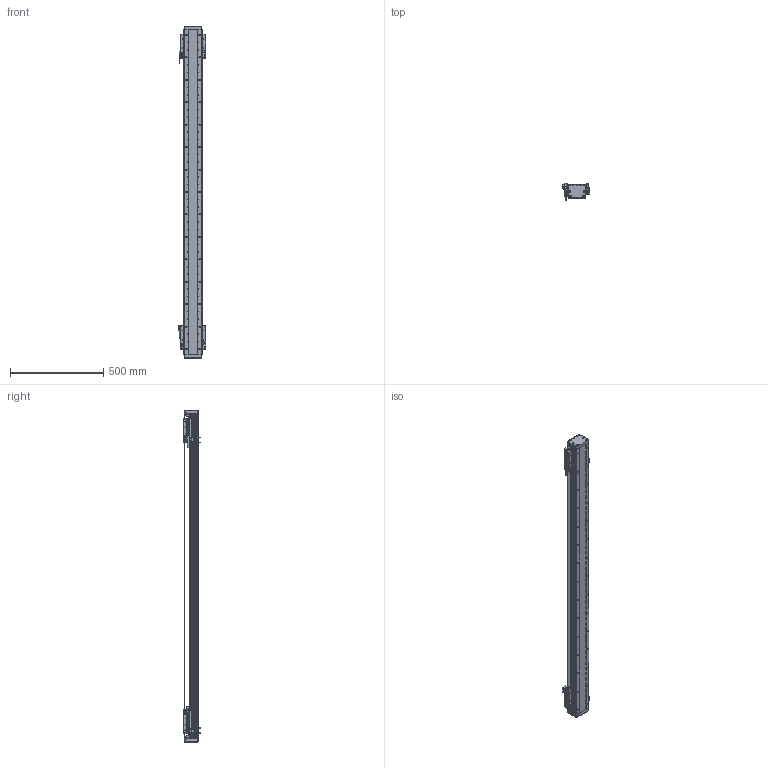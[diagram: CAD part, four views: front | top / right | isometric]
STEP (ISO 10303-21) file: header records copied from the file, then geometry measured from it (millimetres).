
FILE_DESCRIPTION (( 'STEP AP203' ), '1' );
FILE_NAME ('DA-B95-2-B15-T1400-C010-0.2 直线电机.STEP', '2023-05-06T06:31:07', ( '微软用户' ), ( '微软中国' ), 'SwSTEP 2.0', 'SolidWorks 2019', '' );
FILE_SCHEMA (( 'CONFIG_CONTROL_DESIGN' ));
Length unit declared in the file: millimetre
Products named in the file (34): 复件 六角薄螺母 M3^DA-A95-B15-T-C010-0.2-N 直线电机_GB_FASTENER_NUT_STNAB M3-C; 复件 DKW-KGZ-ZJ-00 中间光电开关支架^DA-A95-B15-T-C010-0.2-N 直线电机; 葩璃 PM-Y45^DA-A95-B15-T-C010-0.2-N 眻盄萇儂; LMDK-2-R001-V5-L02-C1-F00，0.2M 读数头^DA-A95-B15-T-C010-0.2-N 直线电机_DMA-010-0.2; 复件 复件 18252-0001-004-00 钢带端盖^DA-A95-B15-T-C010-0.2-N 直线电机; DA95-HXJ-00 缓冲橡胶^DA-A95-B15-T-C010-0.2-N 直线电机; 葩璃 DA95-B15-DP-A-00 菜えA^66245-BU95-V 幗紩賑怢; 葩璃 BKMA01-W060-TRL^DA-A95-B15-T-C010-0.2-N 眻盄萇儂; 葩璃 DA95-B15-DP--B-00 菜えB^66245-BU95-V 幗紩賑怢; B15 XD-U-02L ｴﾅﾕ､ｳﾟ^DA-A95-B15-T-C010-0.2-N ﾖｱﾏﾟｵ扈銈XD-U-02L; 66245-BU95-V-00 珨极趙賑雄怢啣; 复件 复件 18252-0001-003-00 钢带拉块^DA-A95-B15-T-C010-0.2-N 直线电机; 复件 DA95-DB-00  挡板^66245-BU95-V 滚珠滑台; DA-B95-2-B15-T1400-C010-0.2 眻盄萇儂; 葩璃 DA95-GT-T-00^IU-BU95-L 菁釱絳寢_DA95; 复件 DA95-HK-GT-00 滑块钢轨^66245-BU95-V-00 一体化滑动台板; IU-BU95-L 菁釱絳寢; 复件 纯铜油杯 6x6mm^66245-BU95-V 滚珠滑台; 复件 66245-BU95-HT-V-01 滑动台板^66245-BU95-V-00 一体化滑动台板; IU-BU95-L-00 菁釱_L1740; DA-A95-GYP-00 光电感应片^DA-A95-B15-T-C010-0.2-N 直线电机; 复件 DA95-B15 钢带盖板^DA-A95-B15-T-C010-0.2-N 直线电机; 复件 DA95-DK-00 挡块^66245-BU95-V 滚珠滑台; 66245-BU95-V 幗紩賑怢; 复件 DA95-MFP-01 密封片^66245-BU95-V 滚珠滑台; 复件 DA95-B15-YB-A-00 压板A^66245-BU95-V 滚珠滑台; 复件 DA95-B15-YB-B-00 压板B^66245-BU95-V 滚珠滑台; PM-T45 光电开关^DA-A95-B15-T-C010-0.2-N 直线电机; 复件 DKW-GYP-ZJ-00 中间光电感应片^DA-A95-B15-T-C010-0.2-N 直线电机; 葩璃 BKM015-W060-C1-TP-DA-0.2^DA-A95-B15-T-C010-0.2-N 眻盄萇儂; 复件 复件 18252-0001-002-00 钢带垫块^DA-A95-B15-T-C010-0.2-N 直线电机; 复件 DKW-HXJ-JY-00 缓冲橡胶^DA-A95-B15-T-C010-0.2-N 直线电机
Assembly tree (80 placements, depth 4):
  DA-B95-2-B15-T1400-C010-0.2 眻盄萇儂
    IU-BU95-L 菁釱絳寢
      IU-BU95-L-00 菁釱_L1740
      葩璃 DA95-GT-T-00^IU-BU95-L 菁釱絳寢_DA95  x2
    66245-BU95-V 幗紩賑怢
      66245-BU95-V-00 珨极趙賑雄怢啣
        复件 66245-BU95-HT-V-01 滑动台板^66245-BU95-V-00 一体化滑动台板
        复件 DA95-HK-GT-00 滑块钢轨^66245-BU95-V-00 一体化滑动台板  x2
      葩璃 DA95-B15-DP-A-00 菜えA^66245-BU95-V 幗紩賑怢
      复件 DA95-B15-YB-A-00 压板A^66245-BU95-V 滚珠滑台
      复件 DA95-B15-YB-B-00 压板B^66245-BU95-V 滚珠滑台
      复件 DA95-DB-00  挡板^66245-BU95-V 滚珠滑台  x4
      复件 DA95-DK-00 挡块^66245-BU95-V 滚珠滑台  x2
      复件 DA95-MFP-01 密封片^66245-BU95-V 滚珠滑台  x4
      复件 纯铜油杯 6x6mm^66245-BU95-V 滚珠滑台  x2
      葩璃 DA95-B15-DP--B-00 菜えB^66245-BU95-V 幗紩賑怢
    66245-BU95-V 幗紩賑怢
      66245-BU95-V-00 珨极趙賑雄怢啣
        复件 66245-BU95-HT-V-01 滑动台板^66245-BU95-V-00 一体化滑动台板
        复件 DA95-HK-GT-00 滑块钢轨^66245-BU95-V-00 一体化滑动台板  x2
      葩璃 DA95-B15-DP-A-00 菜えA^66245-BU95-V 幗紩賑怢
      复件 DA95-B15-YB-A-00 压板A^66245-BU95-V 滚珠滑台
      复件 DA95-B15-YB-B-00 压板B^66245-BU95-V 滚珠滑台
      复件 DA95-DB-00  挡板^66245-BU95-V 滚珠滑台  x4
      复件 DA95-DK-00 挡块^66245-BU95-V 滚珠滑台  x2
      复件 DA95-MFP-01 密封片^66245-BU95-V 滚珠滑台  x4
      复件 纯铜油杯 6x6mm^66245-BU95-V 滚珠滑台  x2
      葩璃 DA95-B15-DP--B-00 菜えB^66245-BU95-V 幗紩賑怢
    DA-A95-GYP-00 光电感应片^DA-A95-B15-T-C010-0.2-N 直线电机  x2
    LMDK-2-R001-V5-L02-C1-F00，0.2M 读数头^DA-A95-B15-T-C010-0.2-N 直线电机_DMA-010-0.2  x2
    复件 DKW-KGZ-ZJ-00 中间光电开关支架^DA-A95-B15-T-C010-0.2-N 直线电机
    葩璃 PM-Y45^DA-A95-B15-T-C010-0.2-N 眻盄萇儂
    复件 DKW-GYP-ZJ-00 中间光电感应片^DA-A95-B15-T-C010-0.2-N 直线电机
    葩璃 BKM015-W060-C1-TP-DA-0.2^DA-A95-B15-T-C010-0.2-N 眻盄萇儂  x2
    复件 DKW-HXJ-JY-00 缓冲橡胶^DA-A95-B15-T-C010-0.2-N 直线电机  x2
    PM-T45 光电开关^DA-A95-B15-T-C010-0.2-N 直线电机  x4
    B15 XD-U-02L ｴﾅﾕ､ｳﾟ^DA-A95-B15-T-C010-0.2-N ﾖｱﾏﾟｵ扈銈XD-U-02L
    复件 复件 18252-0001-003-00 钢带拉块^DA-A95-B15-T-C010-0.2-N 直线电机  x2
    复件 复件 18252-0001-002-00 钢带垫块^DA-A95-B15-T-C010-0.2-N 直线电机  x2
    复件 复件 18252-0001-004-00 钢带端盖^DA-A95-B15-T-C010-0.2-N 直线电机  x2
    复件 DA95-B15 钢带盖板^DA-A95-B15-T-C010-0.2-N 直线电机
    DA95-HXJ-00 缓冲橡胶^DA-A95-B15-T-C010-0.2-N 直线电机  x4
    葩璃 BKMA01-W060-TRL^DA-A95-B15-T-C010-0.2-N 眻盄萇儂
    复件 六角薄螺母 M3^DA-A95-B15-T-C010-0.2-N 直线电机_GB_FASTENER_NUT_STNAB M3-C  x6
Bounding box: 145.4 x 90.2 x 1776 mm (x, y, z)
Volume: 6153997 mm3; surface area: 2005057.5 mm2
Topology: 75 solids, 93 shells, 3872 faces, 10612 edges, 6687 vertices
Faces by surface type: cylinder 1901, plane 1439, cone 464, torus 64, sphere 4
Entity records: 85384 total; most frequent: CARTESIAN_POINT 20954, ORIENTED_EDGE 12582, DIRECTION 12484, EDGE_CURVE 6291, AXIS2_PLACEMENT_3D 4713, VERTEX_POINT 4089, LINE 3058, VECTOR 3058
